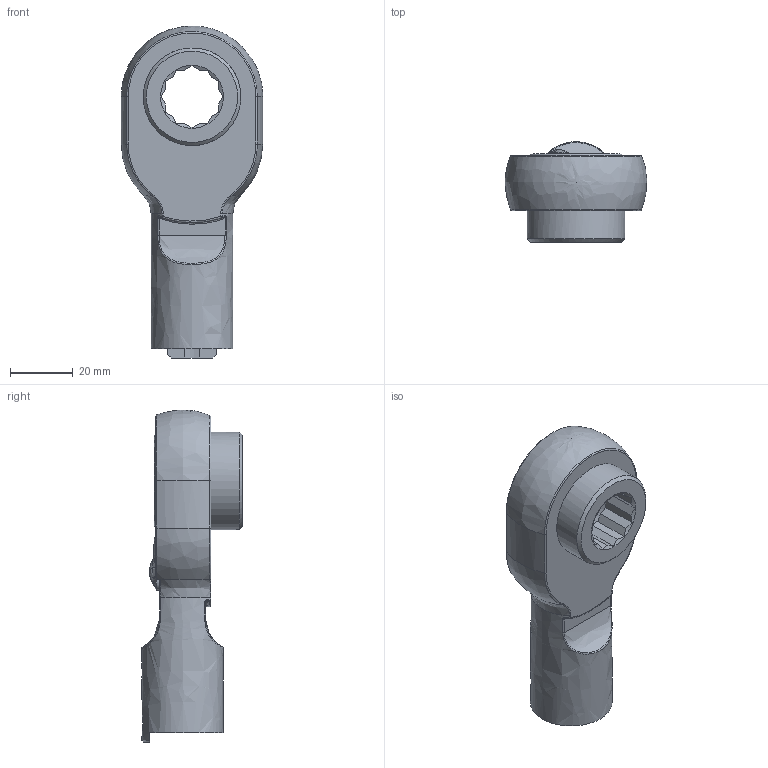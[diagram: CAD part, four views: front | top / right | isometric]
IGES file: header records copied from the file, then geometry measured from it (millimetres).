
Global section: file name: RQH19DX19; native system: Autodesk Inventor 2017; preprocessor: unknown; author: q603; date: 20170209.094602; units: millimetre
Bounding box: 44.98 x 32 x 105.5 mm (x, y, z)
Volume: 52555.3 mm3; surface area: 14442.9 mm2
Topology: 1 solids, 1 shells, 167 faces, 439 edges, 273 vertices
Faces by surface type: bspline 167
